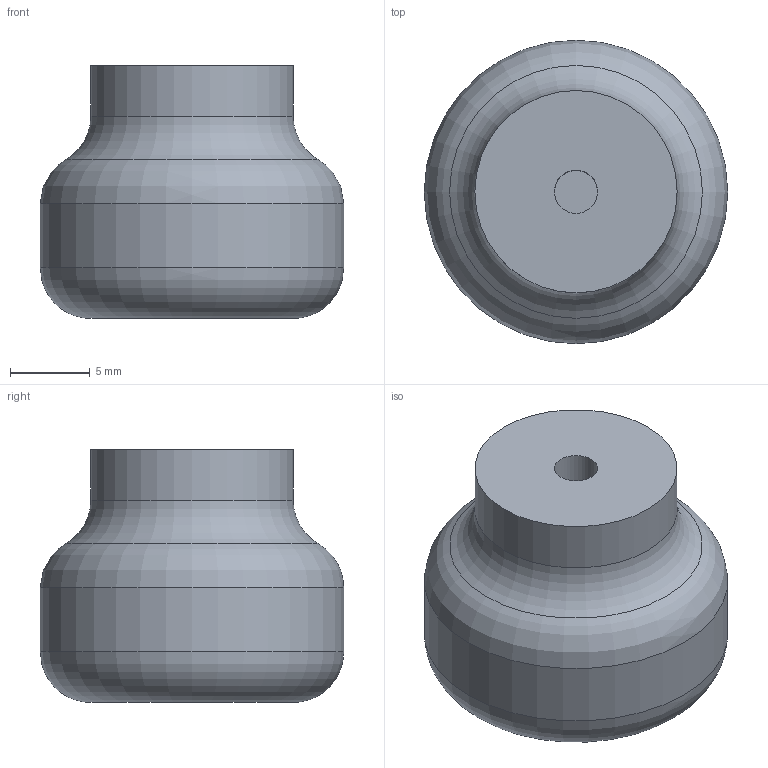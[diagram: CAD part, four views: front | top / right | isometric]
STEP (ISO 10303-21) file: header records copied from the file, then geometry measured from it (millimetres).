
FILE_DESCRIPTION(/* description */ (''),/* implementation_level */ '2;1');
FILE_NAME(/* name */ 'C:\Users\Mark\Desktop\Inventor Projects\Trammel_Projects\Trammel1\Instructables\Knob.stp',/* time_stamp */ '2016-02-26T08:43:38-05:00',/* author */ ('Mark'),/* organization */ (''),/* preprocessor_version */ 'ST-DEVELOPER v16.1',/* originating_system */ 'Autodesk Inventor 2016',/* authorisation */ '');
FILE_SCHEMA (('AUTOMOTIVE_DESIGN { 1 0 10303 214 3 1 1 }'));
Length unit declared in the file: inch
Products named in the file (1): Knob
Bounding box: 19.05 x 19.05 x 15.88 mm (x, y, z)
Volume: 3374.9 mm3; surface area: 1323.4 mm2
Topology: 1 solids, 1 shells, 9 faces, 14 edges, 8 vertices
Faces by surface type: cylinder 3, plane 3, torus 3
Full cylindrical faces by diameter (mm): 2.718 x1, 12.7 x1, 19.05 x1
Entity records: 200 total; most frequent: DIRECTION 36, CARTESIAN_POINT 26, AXIS2_PLACEMENT_3D 18, EDGE_LOOP 16, ORIENTED_EDGE 16, FACE_OUTER_BOUND 9, ADVANCED_FACE 9, CIRCLE 8
